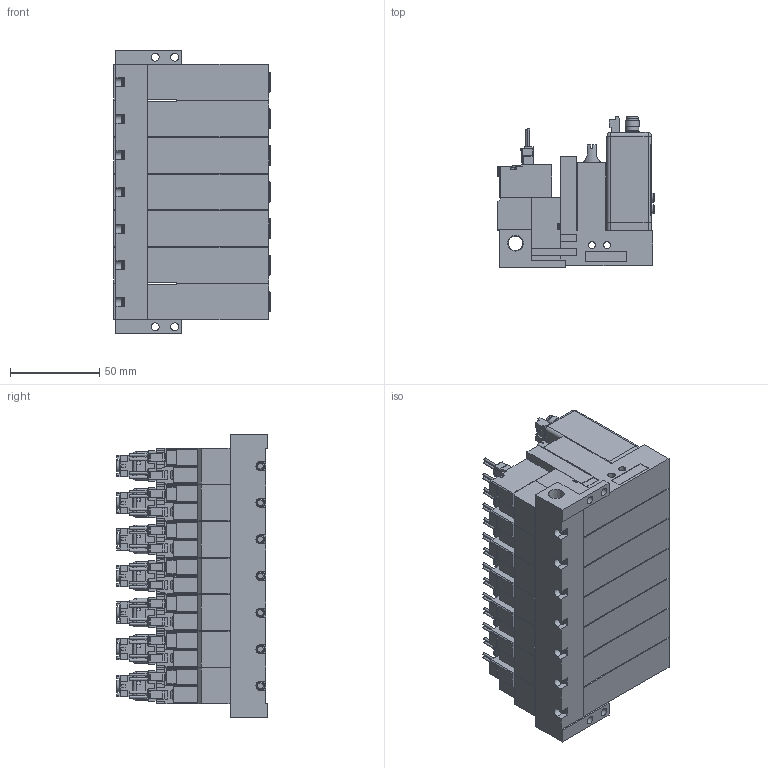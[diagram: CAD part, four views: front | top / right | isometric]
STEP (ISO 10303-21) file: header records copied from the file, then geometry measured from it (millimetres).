
FILE_DESCRIPTION(('STEP AP203'),'1');
FILE_NAME('22_22PL5ALR707.stp','2025-06-12T05:03:49',(' '),(' '),'Spatial InterOp 3D',' ',' ');
FILE_SCHEMA(('CONFIG_CONTROL_DESIGN'));
Length unit declared in the file: millimetre
Products named in the file (11): BMC22M※※※※22_22PL5ALR707; Solenoid valve A; Unit L; Base MR70R; MVS-202
Assembly tree (22 placements, depth 2):
  BMC22M※※※※22_22PL5ALR707
    Solenoid valve A  x7
    Unit L  x7
    Base MR70R
    MVS-202
    MVS-202
    MVS-202
    MVS-202
    MVS-202
    MVS-202
    MVS-202
Bounding box: 87.5 x 84.6 x 159 mm (x, y, z)
Volume: 679361.4 mm3; surface area: 204663.5 mm2
Topology: 22 solids, 50 shells, 5397 faces, 14052 edges, 9175 vertices
Faces by surface type: plane 4536, cylinder 677, cone 114, torus 42, sphere 28
Full cylindrical faces by diameter (mm): 1 x28, 1.4 x28, 1.5 x7, 2.5 x7, 3 x28, 3.5 x28, 3.6 x7, 4 x14, 4.134 x7, 4.5 x32, 4.8 x21, 5 x14, 5.2 x7, 5.8 x14, 6 x14, 6.5 x21, 6.6 x7, 7 x7, 7.2 x7, 7.9 x7, 8 x14, 8.279 x1
Entity records: 101168 total; most frequent: CARTESIAN_POINT 18198, ORIENTED_EDGE 16548, DIRECTION 16350, EDGE_CURVE 8274, LINE 6972, VECTOR 6972, VERTEX_POINT 5597, AXIS2_PLACEMENT_3D 4689
